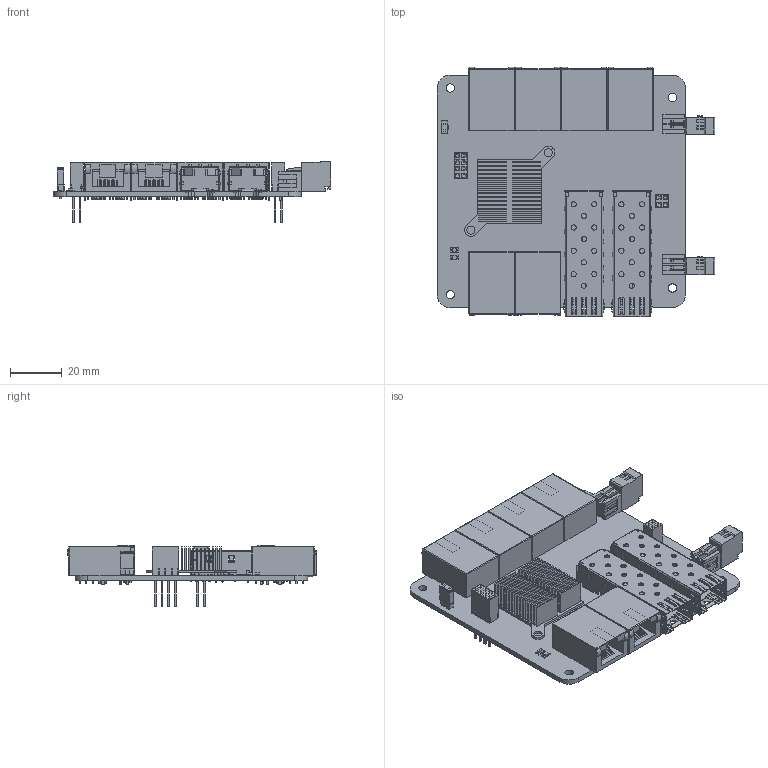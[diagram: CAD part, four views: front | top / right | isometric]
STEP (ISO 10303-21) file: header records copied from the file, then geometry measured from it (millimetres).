
FILE_DESCRIPTION(/* description */ ('PCB CS Ethernet Switch 8-port with Dual SFP'),/* implementation_level */ '2;1');
FILE_NAME(/* name */ '117998 v6.step',/* time_stamp */ '2025-05-13T12:31:55+02:00',/* author */ (''),/* organization */ (''),/* preprocessor_version */ 'ST-DEVELOPER v20.1',/* originating_system */ 'Autodesk Translation Framework v14.4.0.0',/* authorisation */ '');
FILE_SCHEMA (('AUTOMOTIVE_DESIGN { 1 0 10303 214 3 1 1 }'));
Products named in the file (3): 117998 simple; 100040; 100126
Assembly tree (3 placements, depth 2):
  117998 simple
    100040  x2
    100126
Bounding box: 107.35 x 96.5 x 23.94 mm (x, y, z)
Volume: 47535.4 mm3; surface area: 54304.7 mm2
Topology: 20 solids, 20 shells, 4124 faces, 11396 edges, 7392 vertices
Faces by surface type: plane 3030, cylinder 1014, cone 56, sphere 24
Full cylindrical faces by diameter (mm): 1.2 x4, 2 x24, 3.175 x2, 3.2 x4
Entity records: 130026 total; most frequent: CARTESIAN_POINT 22120, ORIENTED_EDGE 21942, DIRECTION 20911, EDGE_CURVE 10971, LINE 8997, VECTOR 8997, VERTEX_POINT 7144, AXIS2_PLACEMENT_3D 5957
